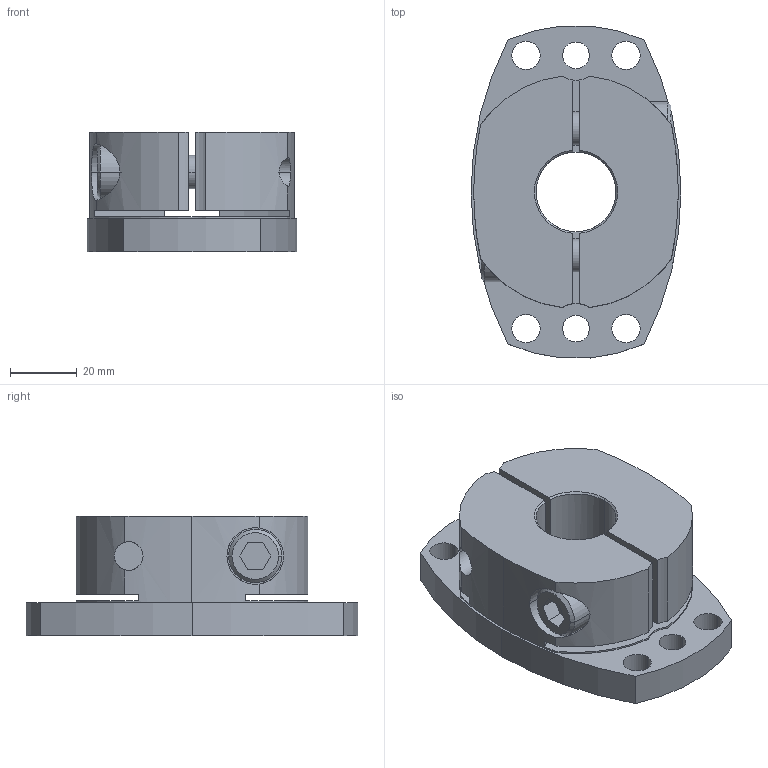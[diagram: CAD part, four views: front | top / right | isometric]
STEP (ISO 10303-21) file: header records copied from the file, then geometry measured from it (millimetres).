
FILE_DESCRIPTION((''),'2;1');
FILE_NAME('SHDB-100B-24.stp','2026-01-28T08:38:51',(''),(''),'AutoCAD STEP 2000i','AutoCAD 2000i',', , ');
FILE_SCHEMA(('CONFIG_CONTROL_DESIGN'));
Length unit declared in the file: millimetre
Products named in the file (2): SHDB-100B-20; 忣兜1
Assembly tree (1 placements, depth 2):
  SHDB-100B-20
    忣兜1
Bounding box: 63 x 99.64 x 36 mm (x, y, z)
Volume: 118685.5 mm3; surface area: 30633 mm2
Topology: 1 solids, 1 shells, 102 faces, 280 edges, 184 vertices
Faces by surface type: cylinder 58, plane 34, cone 10
Entity records: 3723 total; most frequent: CARTESIAN_POINT 896, DIRECTION 602, ORIENTED_EDGE 560, EDGE_CURVE 280, AXIS2_PLACEMENT_3D 238, VERTEX_POINT 184, CIRCLE 134, VECTOR 126
